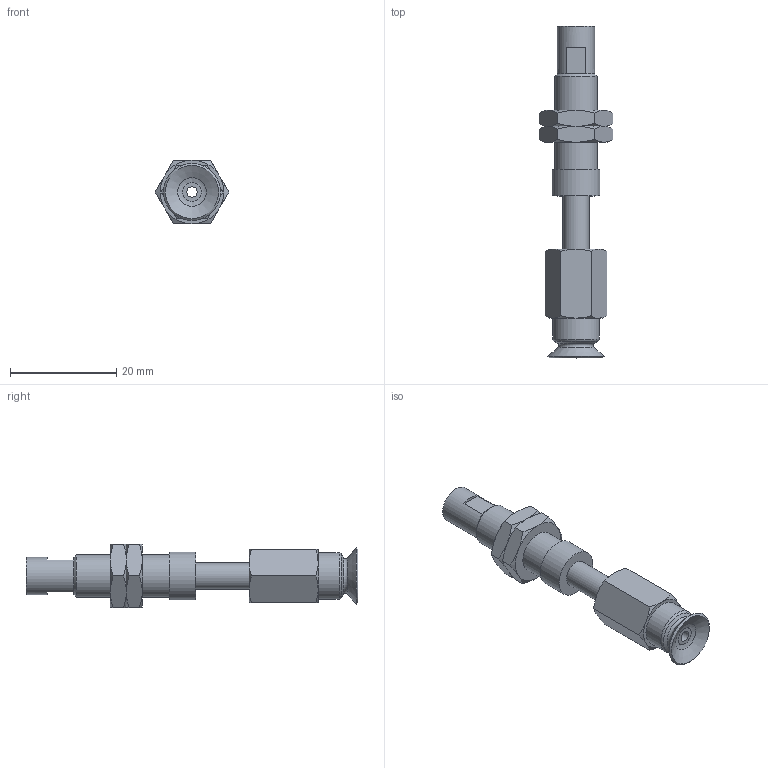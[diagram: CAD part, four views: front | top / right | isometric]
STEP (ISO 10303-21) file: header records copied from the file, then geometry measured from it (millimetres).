
FILE_DESCRIPTION(('STEP AP203'),'1');
FILE_NAME('.stp','2025-08-27T05:46:17',(' '),(' '),'Spatial InterOp 3D',' ',' ');
FILE_SCHEMA(('CONFIG_CONTROL_DESIGN'));
Length unit declared in the file: millimetre
Products named in the file (6): BNABPFTS-10A-10-※; ADAPTER; NAPATS-10A-10--M; Nut-10A-10-s; NAPFTS-10A-10-FBODY; BPFG-10A-※
Assembly tree (6 placements, depth 2):
  BNABPFTS-10A-10-※
    ADAPTER
    NAPATS-10A-10--M
    Nut-10A-10-s  x2
    NAPFTS-10A-10-FBODY
    BPFG-10A-※
Bounding box: 13.86 x 62.5 x 12 mm (x, y, z)
Volume: 3492.6 mm3; surface area: 4071.5 mm2
Topology: 6 solids, 6 shells, 113 faces, 234 edges, 141 vertices
Faces by surface type: cone 46, plane 42, cylinder 16, torus 8, bspline 1
Full cylindrical faces by diameter (mm): 2 x3, 4 x2, 4.134 x1, 5 x2, 6 x2, 7 x1, 7.188 x2, 8 x1, 8.7 x1, 9 x1
Entity records: 2667 total; most frequent: CARTESIAN_POINT 662, DIRECTION 364, ORIENTED_EDGE 290, AXIS2_PLACEMENT_3D 171, EDGE_CURVE 145, EDGE_LOOP 140, FACE_OUTER_BOUND 114, VERTEX_POINT 105
